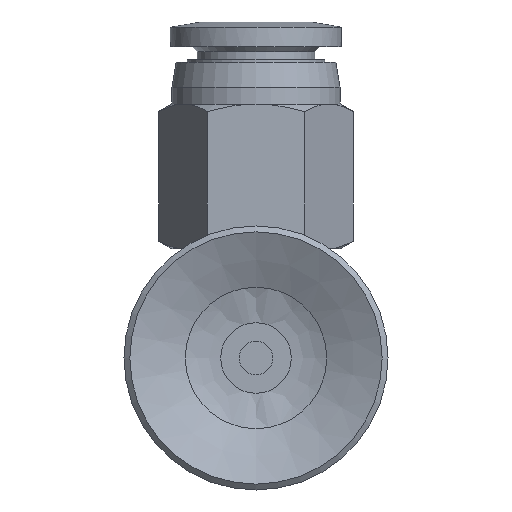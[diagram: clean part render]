
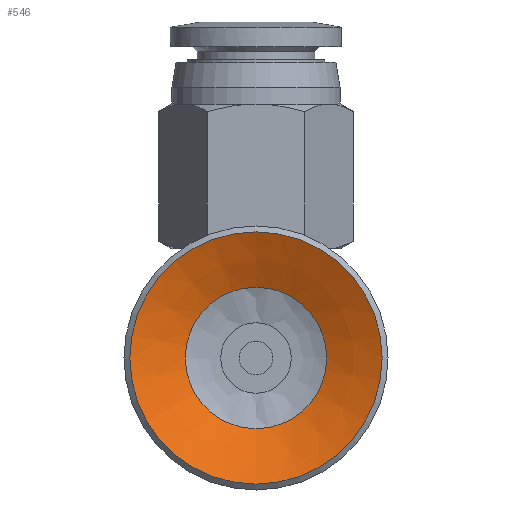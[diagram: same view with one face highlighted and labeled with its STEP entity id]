
A CAD part, front view. The second image highlights one B-rep face of the part: STEP entity #546.
In plain terms, the highlighted conical face has half-angle 65.056 degrees and reference radius 3.2 mm.
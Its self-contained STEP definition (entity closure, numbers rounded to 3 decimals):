
#546=ADVANCED_FACE('',(#836,#837),#838,.F.);
#836=FACE_BOUND('',#1229,.T.);
#837=FACE_OUTER_BOUND('',#1230,.T.);
#838=CONICAL_SURFACE('',#1231,3.2,1.135);
#1229=EDGE_LOOP('',(#2244));
#1230=EDGE_LOOP('',(#2245));
#1231=AXIS2_PLACEMENT_3D('',#2246,#2247,#2248);
#2244=ORIENTED_EDGE('',*,*,#2790,.T.);
#2245=ORIENTED_EDGE('',*,*,#2791,.T.);
#2246=CARTESIAN_POINT('',(0.0,7.896,0.0));
#2247=DIRECTION('',(-0.0,-1.0,0.));
#2248=DIRECTION('',(0.0,0.,-1.0));
#2790=EDGE_CURVE('',#3168,#3168,#3169,.T.);
#2791=EDGE_CURVE('',#3170,#3170,#3171,.T.);
#3168=VERTEX_POINT('',#4006);
#3169=CIRCLE('',#4007,4.203);
#3170=VERTEX_POINT('',#4008);
#3171=CIRCLE('',#4009,7.5);
#4006=CARTESIAN_POINT('',(0.0,7.43,-4.203));
#4007=AXIS2_PLACEMENT_3D('',#4747,#4748,#4749);
#4008=CARTESIAN_POINT('',(0.0,5.896,-7.5));
#4009=AXIS2_PLACEMENT_3D('',#4750,#4751,#4752);
#4747=CARTESIAN_POINT('',(0.0,7.43,0.0));
#4748=DIRECTION('',(0.0,1.0,0.));
#4749=DIRECTION('',(0.0,0.,-1.0));
#4750=CARTESIAN_POINT('',(0.0,5.896,0.0));
#4751=DIRECTION('',(0.0,-1.0,0.));
#4752=DIRECTION('',(0.0,0.,-1.0));
